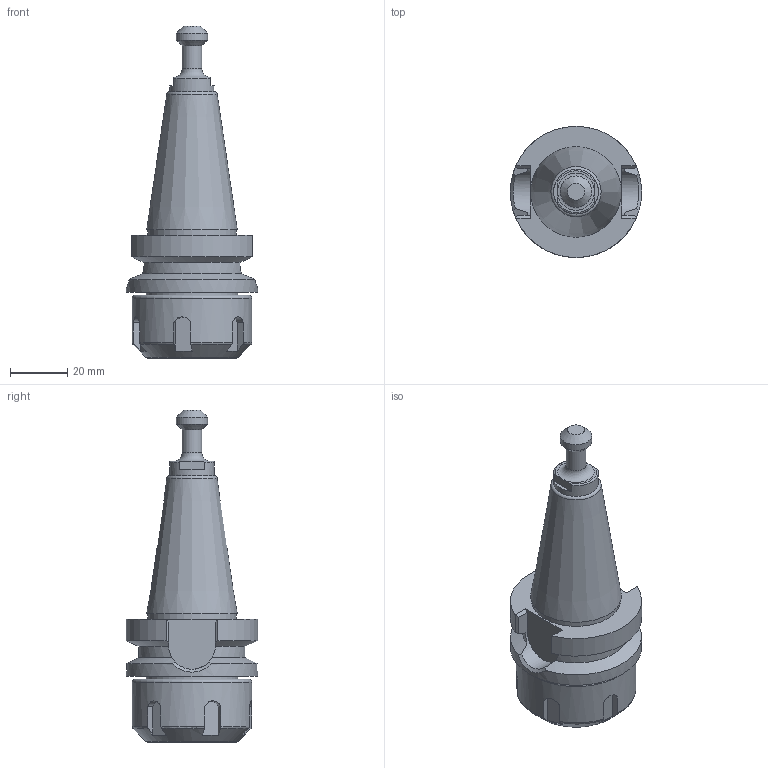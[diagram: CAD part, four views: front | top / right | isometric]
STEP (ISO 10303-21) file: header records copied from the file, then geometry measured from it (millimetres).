
FILE_DESCRIPTION(/* description */ (''),/* implementation_level */ '2;1');
FILE_NAME(/* name */ 'BT30-ER25.stp',/* time_stamp */ '2024-12-17T16:16:59+03:00',/* author */ ('KanaanMD'),/* organization */ (''),/* preprocessor_version */ 'ST-DEVELOPER v19.2',/* originating_system */ 'Autodesk Inventor 2024',/* authorisation */ '');
FILE_SCHEMA (('AUTOMOTIVE_DESIGN { 1 0 10303 214 3 1 1 }'));
Length unit declared in the file: millimetre
Products named in the file (3): BT30-ER25; BT30-ER25_1; Крышка
Assembly tree (2 placements, depth 2):
  BT30-ER25
    BT30-ER25_1
    Крышка
Bounding box: 46 x 46 x 116.4 mm (x, y, z)
Volume: 65728.1 mm3; surface area: 22580.6 mm2
Topology: 2 solids, 2 shells, 107 faces, 290 edges, 194 vertices
Faces by surface type: plane 55, cylinder 23, torus 14, cone 13, bspline 2
Full cylindrical faces by diameter (mm): 7 x1, 11 x1, 11.5 x1, 12.5 x1, 15.675 x1, 16 x1, 31 x2, 32 x1, 42 x1, 46 x1
Entity records: 3835 total; most frequent: CARTESIAN_POINT 1027, ORIENTED_EDGE 580, DIRECTION 548, EDGE_CURVE 290, AXIS2_PLACEMENT_3D 213, VERTEX_POINT 194, LINE 122, VECTOR 122
